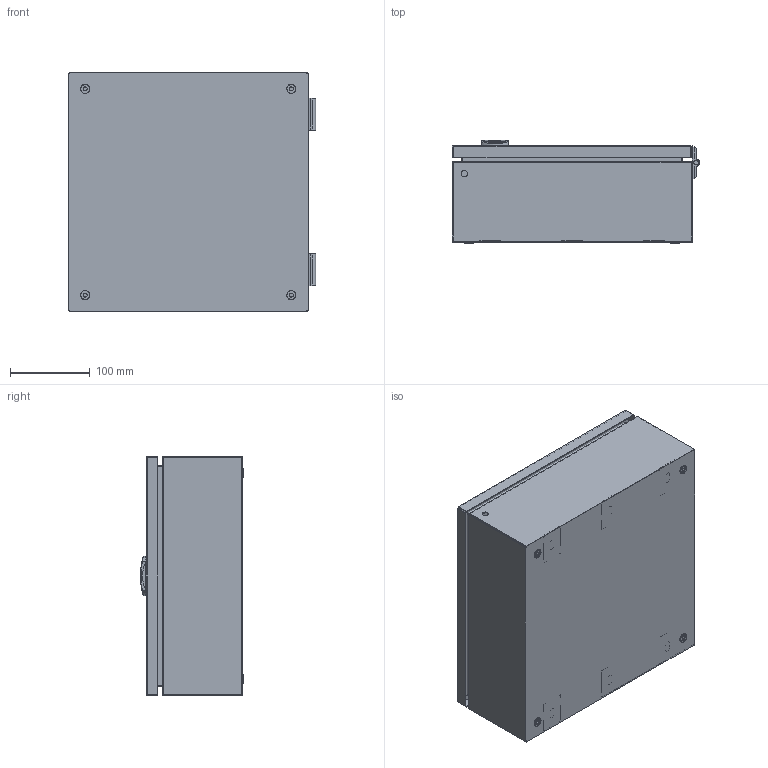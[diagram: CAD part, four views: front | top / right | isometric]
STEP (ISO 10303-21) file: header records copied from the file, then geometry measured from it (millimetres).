
FILE_DESCRIPTION(('Open CASCADE Model'),'2;1');
FILE_NAME('Open CASCADE Shape Model','2025-11-18T10:54:17',('Author'),( 'Open CASCADE'),'Open CASCADE STEP processor 7.8','Open CASCADE 7.8' ,'Unknown');
FILE_SCHEMA(('AUTOMOTIVE_DESIGN { 1 0 10303 214 1 1 1 1 }'));
Length unit declared in the file: millimetre
Products named in the file (21): Compound1; Compound2; Compound3; Solid1; Solid2; Solid3; Compound4; Compound5; Solid4; Solid5; Solid6; Compound6; Solid7; Solid8; Solid9; Solid10; Solid11; Solid12; Solid13; Solid14; Solid15
Assembly tree (35 placements, depth 5):
  Compound1
    Compound2
      Compound3
        Solid1
        Solid2  x2
        Solid3
      Compound4
        Compound5
          Solid4
          Solid3
        Solid5
        Solid6
        Compound6
          Solid7
          Solid8
          Solid9
          Solid10
      Solid11  x2
      Solid12  x4
      Solid13  x4
      Solid14  x4
    Solid15  x4
Bounding box: 309.4 x 129.04 x 300 mm (x, y, z)
Volume: 588120.1 mm3; surface area: 821567.3 mm2
Topology: 36 solids, 36 shells, 1180 faces, 2949 edges, 1872 vertices
Faces by surface type: plane 569, cylinder 242, bspline 205, cone 94, torus 53, sphere 17
Full cylindrical faces by diameter (mm): 3.2 x4, 4 x26, 4.2 x8, 5 x13, 5.15 x4, 5.5 x4, 5.8 x2, 5.857 x8, 6 x5, 7.5 x2, 8 x9, 8.4 x4, 9.6 x1, 11.5 x4, 12 x1, 12.7 x1, 15.6 x1
Entity records: 38772 total; most frequent: CARTESIAN_POINT 18797, ORIENTED_EDGE 4432, DIRECTION 3451, EDGE_CURVE 2216, VERTEX_POINT 1425, AXIS2_PLACEMENT_3D 1234, LINE 983, VECTOR 983
